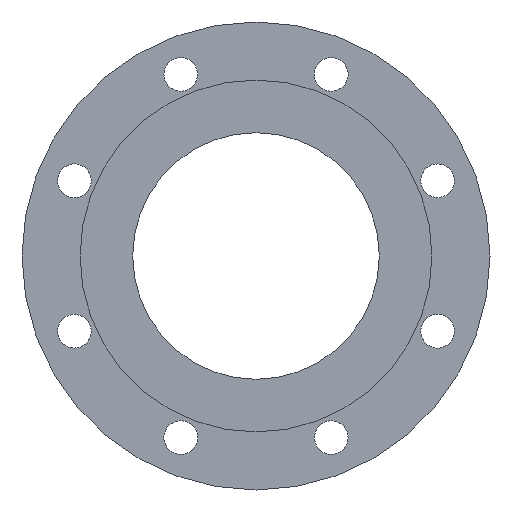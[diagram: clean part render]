
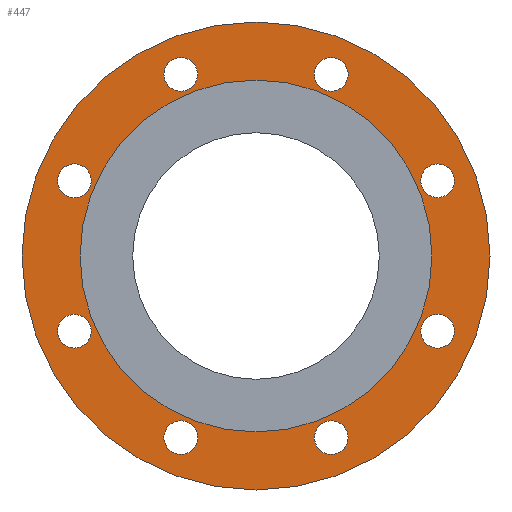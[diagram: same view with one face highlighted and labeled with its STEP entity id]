
A CAD part, left-side view. The second image highlights one B-rep face of the part: STEP entity #447.
In plain terms, the highlighted planar face has unit normal (-1, 0, 0).
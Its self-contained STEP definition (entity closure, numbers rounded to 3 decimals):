
#70=FACE_BOUND('',#128,.T.);
#71=FACE_BOUND('',#129,.T.);
#72=FACE_BOUND('',#130,.T.);
#73=FACE_BOUND('',#131,.T.);
#74=FACE_BOUND('',#132,.T.);
#75=FACE_BOUND('',#133,.T.);
#76=FACE_BOUND('',#134,.T.);
#77=FACE_BOUND('',#135,.T.);
#78=FACE_BOUND('',#136,.T.);
#95=FACE_OUTER_BOUND('',#127,.T.);
#127=EDGE_LOOP('',(#397,#398));
#128=EDGE_LOOP('',(#399));
#129=EDGE_LOOP('',(#400));
#130=EDGE_LOOP('',(#401));
#131=EDGE_LOOP('',(#402));
#132=EDGE_LOOP('',(#403));
#133=EDGE_LOOP('',(#404));
#134=EDGE_LOOP('',(#405));
#135=EDGE_LOOP('',(#406));
#136=EDGE_LOOP('',(#407,#408));
#144=CIRCLE('',#477,9.);
#147=CIRCLE('',#481,9.);
#150=CIRCLE('',#485,9.);
#153=CIRCLE('',#489,9.);
#156=CIRCLE('',#493,9.);
#159=CIRCLE('',#497,9.);
#162=CIRCLE('',#501,9.);
#165=CIRCLE('',#505,9.);
#185=CIRCLE('',#532,94.);
#186=CIRCLE('',#533,94.);
#187=CIRCLE('',#535,125.);
#188=CIRCLE('',#536,125.);
#193=VERTEX_POINT('',#705);
#196=VERTEX_POINT('',#713);
#199=VERTEX_POINT('',#721);
#202=VERTEX_POINT('',#729);
#205=VERTEX_POINT('',#737);
#208=VERTEX_POINT('',#745);
#211=VERTEX_POINT('',#753);
#214=VERTEX_POINT('',#761);
#233=VERTEX_POINT('',#810);
#234=VERTEX_POINT('',#811);
#235=VERTEX_POINT('',#816);
#236=VERTEX_POINT('',#817);
#241=EDGE_CURVE('',#193,#193,#144,.T.);
#245=EDGE_CURVE('',#196,#196,#147,.T.);
#249=EDGE_CURVE('',#199,#199,#150,.T.);
#253=EDGE_CURVE('',#202,#202,#153,.T.);
#257=EDGE_CURVE('',#205,#205,#156,.T.);
#261=EDGE_CURVE('',#208,#208,#159,.T.);
#265=EDGE_CURVE('',#211,#211,#162,.T.);
#269=EDGE_CURVE('',#214,#214,#165,.T.);
#292=EDGE_CURVE('',#233,#234,#185,.T.);
#293=EDGE_CURVE('',#234,#233,#186,.T.);
#295=EDGE_CURVE('',#235,#236,#187,.T.);
#296=EDGE_CURVE('',#236,#235,#188,.T.);
#397=ORIENTED_EDGE('',*,*,#295,.F.);
#398=ORIENTED_EDGE('',*,*,#296,.F.);
#399=ORIENTED_EDGE('',*,*,#241,.T.);
#400=ORIENTED_EDGE('',*,*,#245,.T.);
#401=ORIENTED_EDGE('',*,*,#249,.T.);
#402=ORIENTED_EDGE('',*,*,#253,.T.);
#403=ORIENTED_EDGE('',*,*,#257,.T.);
#404=ORIENTED_EDGE('',*,*,#261,.T.);
#405=ORIENTED_EDGE('',*,*,#265,.T.);
#406=ORIENTED_EDGE('',*,*,#269,.T.);
#407=ORIENTED_EDGE('',*,*,#292,.T.);
#408=ORIENTED_EDGE('',*,*,#293,.T.);
#430=PLANE('',#534);
#447=ADVANCED_FACE('',(#95,#70,#71,#72,#73,#74,#75,#76,#77,#78),#430,.T.);
#477=AXIS2_PLACEMENT_3D('',#706,#554,#555);
#481=AXIS2_PLACEMENT_3D('',#714,#563,#564);
#485=AXIS2_PLACEMENT_3D('',#722,#572,#573);
#489=AXIS2_PLACEMENT_3D('',#730,#581,#582);
#493=AXIS2_PLACEMENT_3D('',#738,#590,#591);
#497=AXIS2_PLACEMENT_3D('',#746,#599,#600);
#501=AXIS2_PLACEMENT_3D('',#754,#608,#609);
#505=AXIS2_PLACEMENT_3D('',#762,#617,#618);
#532=AXIS2_PLACEMENT_3D('',#812,#674,#675);
#533=AXIS2_PLACEMENT_3D('',#813,#676,#677);
#534=AXIS2_PLACEMENT_3D('',#815,#679,#680);
#535=AXIS2_PLACEMENT_3D('',#818,#681,#682);
#536=AXIS2_PLACEMENT_3D('',#819,#683,#684);
#554=DIRECTION('center_axis',(1.,0.,0.));
#555=DIRECTION('ref_axis',(0.,-0.707,-0.707));
#563=DIRECTION('center_axis',(1.,0.,0.));
#564=DIRECTION('ref_axis',(0.,-1.,0.));
#572=DIRECTION('center_axis',(1.,0.,0.));
#573=DIRECTION('ref_axis',(0.,-0.707,0.707));
#581=DIRECTION('center_axis',(1.,0.,0.));
#582=DIRECTION('ref_axis',(0.,0.,1.));
#590=DIRECTION('center_axis',(1.,0.,0.));
#591=DIRECTION('ref_axis',(0.,0.707,0.707));
#599=DIRECTION('center_axis',(1.,0.,0.));
#600=DIRECTION('ref_axis',(0.,1.,0.));
#608=DIRECTION('center_axis',(1.,0.,0.));
#609=DIRECTION('ref_axis',(0.,0.707,-0.707));
#617=DIRECTION('center_axis',(1.,0.,0.));
#618=DIRECTION('ref_axis',(0.,0.,-1.));
#674=DIRECTION('center_axis',(1.,0.,0.));
#675=DIRECTION('ref_axis',(0.,0.,-1.));
#676=DIRECTION('center_axis',(1.,0.,0.));
#677=DIRECTION('ref_axis',(0.,0.,-1.));
#679=DIRECTION('center_axis',(-1.,0.,0.));
#680=DIRECTION('ref_axis',(0.,0.,1.));
#681=DIRECTION('center_axis',(1.,0.,0.));
#682=DIRECTION('ref_axis',(0.,0.,-1.));
#683=DIRECTION('center_axis',(1.,0.,0.));
#684=DIRECTION('ref_axis',(0.,0.,-1.));
#705=CARTESIAN_POINT('',(-52.,103.371,46.546));
#706=CARTESIAN_POINT('Origin',(-52.,97.007,40.182));
#713=CARTESIAN_POINT('',(-52.,106.007,-40.182));
#714=CARTESIAN_POINT('Origin',(-52.,97.007,-40.182));
#721=CARTESIAN_POINT('',(-52.,46.546,-103.371));
#722=CARTESIAN_POINT('Origin',(-52.,40.182,-97.007));
#729=CARTESIAN_POINT('',(-52.,-40.182,-106.007));
#730=CARTESIAN_POINT('Origin',(-52.,-40.182,-97.007));
#737=CARTESIAN_POINT('',(-52.,-103.371,-46.546));
#738=CARTESIAN_POINT('Origin',(-52.,-97.007,-40.182));
#745=CARTESIAN_POINT('',(-52.,-106.007,40.182));
#746=CARTESIAN_POINT('Origin',(-52.,-97.007,40.182));
#753=CARTESIAN_POINT('',(-52.,-46.546,103.371));
#754=CARTESIAN_POINT('Origin',(-52.,-40.182,97.007));
#761=CARTESIAN_POINT('',(-52.,40.182,106.007));
#762=CARTESIAN_POINT('Origin',(-52.,40.182,97.007));
#810=CARTESIAN_POINT('',(-52.,94.,0.));
#811=CARTESIAN_POINT('',(-52.,-94.,0.));
#812=CARTESIAN_POINT('Origin',(-52.,0.,0.));
#813=CARTESIAN_POINT('Origin',(-52.,0.,0.));
#815=CARTESIAN_POINT('Origin',(-52.,125.,0.));
#816=CARTESIAN_POINT('',(-52.,125.,0.));
#817=CARTESIAN_POINT('',(-52.,-125.,0.));
#818=CARTESIAN_POINT('Origin',(-52.,0.,0.));
#819=CARTESIAN_POINT('Origin',(-52.,0.,0.));
